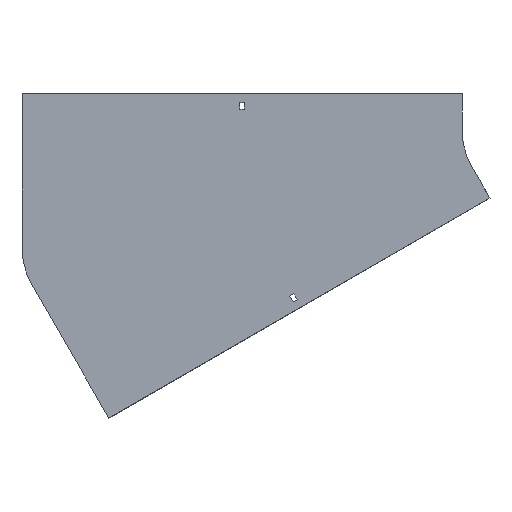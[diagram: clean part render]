
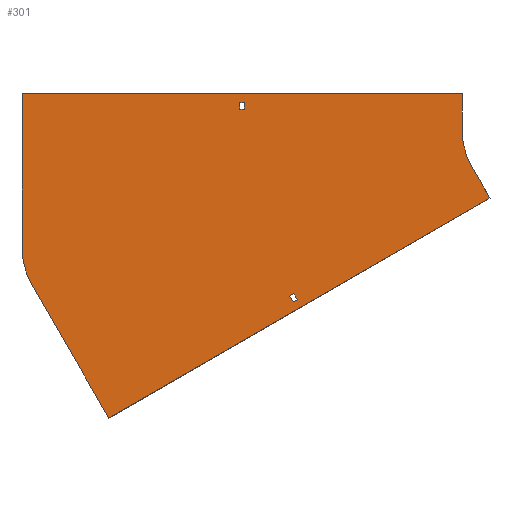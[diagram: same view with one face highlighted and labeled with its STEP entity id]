
A CAD part, front view. The second image highlights one B-rep face of the part: STEP entity #301.
In plain terms, the highlighted planar face has unit normal (0, -1, 0).
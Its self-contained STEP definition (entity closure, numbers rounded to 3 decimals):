
#3 = VERTEX_POINT ( 'NONE', #1500 ) ;
#6 = LINE ( 'NONE', #761, #1547 ) ;
#14 = CARTESIAN_POINT ( 'NONE',  ( -331.957, 0., -235.534 ) ) ;
#36 = CARTESIAN_POINT ( 'NONE',  ( -86.603, 0., -50. ) ) ;
#40 = DIRECTION ( 'NONE',  ( -0.866, 0., -0.5 ) ) ;
#74 = AXIS2_PLACEMENT_3D ( 'NONE', #1403, #182, #1391 ) ;
#79 = ORIENTED_EDGE ( 'NONE', *, *, #1730, .F. ) ;
#91 = CARTESIAN_POINT ( 'NONE',  ( -690.603, 0., -211.841 ) ) ;
#135 = LINE ( 'NONE', #313, #1770 ) ;
#182 = DIRECTION ( 'NONE',  ( 0., -1., 0. ) ) ;
#193 = CARTESIAN_POINT ( 'NONE',  ( -704., 0., 50. ) ) ;
#211 = EDGE_CURVE ( 'NONE', #961, #1633, #1027, .T. ) ;
#217 = CARTESIAN_POINT ( 'NONE',  ( -405.25, 0., 29. ) ) ;
#227 = VERTEX_POINT ( 'NONE', #91 ) ;
#247 = CARTESIAN_POINT ( 'NONE',  ( -326.328, 0., -232.284 ) ) ;
#284 = FACE_BOUND ( 'NONE', #1212, .T. ) ;
#301 = ADVANCED_FACE ( 'NONE', ( #284, #1386, #1505 ), #926, .T. ) ;
#310 = VECTOR ( 'NONE', #40, 1000. ) ;
#313 = CARTESIAN_POINT ( 'NONE',  ( -405.25, 0., 38. ) ) ;
#324 = CARTESIAN_POINT ( 'NONE',  ( -100., 0., 0. ) ) ;
#333 = VERTEX_POINT ( 'NONE', #36 ) ;
#343 = VERTEX_POINT ( 'NONE', #14 ) ;
#386 = VERTEX_POINT ( 'NONE', #1806 ) ;
#403 = ORIENTED_EDGE ( 'NONE', *, *, #594, .T. ) ;
#434 = EDGE_CURVE ( 'NONE', #1881, #1022, #1248, .T. ) ;
#445 = CARTESIAN_POINT ( 'NONE',  ( 0., 0., 0. ) ) ;
#490 = LINE ( 'NONE', #1157, #989 ) ;
#493 = LINE ( 'NONE', #1418, #1107 ) ;
#532 = ORIENTED_EDGE ( 'NONE', *, *, #898, .F. ) ;
#549 = VECTOR ( 'NONE', #1213, 1000. ) ;
#594 = EDGE_CURVE ( 'NONE', #1633, #1546, #1474, .T. ) ;
#610 = VECTOR ( 'NONE', #1449, 1000. ) ;
#636 = ORIENTED_EDGE ( 'NONE', *, *, #1468, .F. ) ;
#661 = VERTEX_POINT ( 'NONE', #1907 ) ;
#667 = AXIS2_PLACEMENT_3D ( 'NONE', #445, #1063, #1236 ) ;
#669 = CIRCLE ( 'NONE', #1235, 100. ) ;
#709 = ORIENTED_EDGE ( 'NONE', *, *, #211, .T. ) ;
#710 = CARTESIAN_POINT ( 'NONE',  ( -604., 0., -161.841 ) ) ;
#713 = EDGE_CURVE ( 'NONE', #1715, #343, #1191, .T. ) ;
#717 = DIRECTION ( 'NONE',  ( 0., 1., 0. ) ) ;
#719 = CARTESIAN_POINT ( 'NONE',  ( -405.25, 0., 29. ) ) ;
#729 = VECTOR ( 'NONE', #1687, 1000. ) ;
#733 = CARTESIAN_POINT ( 'NONE',  ( -405.25, 0., 38. ) ) ;
#747 = VECTOR ( 'NONE', #1918, 1000. ) ;
#748 = LINE ( 'NONE', #1057, #1075 ) ;
#754 = EDGE_CURVE ( 'NONE', #1546, #661, #135, .T. ) ;
#761 = CARTESIAN_POINT ( 'NONE',  ( -584.682, 0., -395.301 ) ) ;
#784 = ORIENTED_EDGE ( 'NONE', *, *, #1284, .F. ) ;
#791 = ORIENTED_EDGE ( 'NONE', *, *, #1046, .F. ) ;
#792 = VECTOR ( 'NONE', #1857, 1000. ) ;
#798 = VERTEX_POINT ( 'NONE', #324 ) ;
#834 = EDGE_CURVE ( 'NONE', #965, #951, #493, .T. ) ;
#849 = CARTESIAN_POINT ( 'NONE',  ( -336.457, 0., -227.74 ) ) ;
#880 = DIRECTION ( 'NONE',  ( 1., 0., 0. ) ) ;
#881 = CIRCLE ( 'NONE', #74, 100. ) ;
#884 = ORIENTED_EDGE ( 'NONE', *, *, #1556, .F. ) ;
#885 = VECTOR ( 'NONE', #1083, 1000. ) ;
#898 = EDGE_CURVE ( 'NONE', #386, #1881, #979, .T. ) ;
#918 = LINE ( 'NONE', #1244, #729 ) ;
#926 = PLANE ( 'NONE',  #667 ) ;
#933 = ORIENTED_EDGE ( 'NONE', *, *, #1635, .F. ) ;
#951 = VERTEX_POINT ( 'NONE', #1722 ) ;
#961 = VERTEX_POINT ( 'NONE', #1014 ) ;
#965 = VERTEX_POINT ( 'NONE', #247 ) ;
#979 = LINE ( 'NONE', #1384, #792 ) ;
#989 = VECTOR ( 'NONE', #1761, 1000. ) ;
#991 = DIRECTION ( 'NONE',  ( 0., 0., 1. ) ) ;
#1006 = ORIENTED_EDGE ( 'NONE', *, *, #1292, .T. ) ;
#1010 = DIRECTION ( 'NONE',  ( -1., 0., 0. ) ) ;
#1014 = CARTESIAN_POINT ( 'NONE',  ( -398.75, 0., 29. ) ) ;
#1019 = LINE ( 'NONE', #1317, #747 ) ;
#1022 = VERTEX_POINT ( 'NONE', #1905 ) ;
#1027 = LINE ( 'NONE', #217, #1864 ) ;
#1041 = ORIENTED_EDGE ( 'NONE', *, *, #754, .T. ) ;
#1046 = EDGE_CURVE ( 'NONE', #227, #386, #669, .T. ) ;
#1057 = CARTESIAN_POINT ( 'NONE',  ( -331.957, 0., -235.534 ) ) ;
#1063 = DIRECTION ( 'NONE',  ( 0., -1., 0. ) ) ;
#1075 = VECTOR ( 'NONE', #1649, 1000. ) ;
#1083 = DIRECTION ( 'NONE',  ( 1., 0., 0. ) ) ;
#1086 = CARTESIAN_POINT ( 'NONE',  ( -61.603, 0., -93.301 ) ) ;
#1107 = VECTOR ( 'NONE', #1699, 1000. ) ;
#1157 = CARTESIAN_POINT ( 'NONE',  ( -86.603, 0., -50. ) ) ;
#1179 = DIRECTION ( 'NONE',  ( -0.5, 0., 0.866 ) ) ;
#1181 = ORIENTED_EDGE ( 'NONE', *, *, #1320, .F. ) ;
#1191 = LINE ( 'NONE', #1493, #549 ) ;
#1212 = EDGE_LOOP ( 'NONE', ( #403, #1041, #1006, #709 ) ) ;
#1213 = DIRECTION ( 'NONE',  ( 0.5, 0., -0.866 ) ) ;
#1235 = AXIS2_PLACEMENT_3D ( 'NONE', #710, #717, #991 ) ;
#1236 = DIRECTION ( 'NONE',  ( 0., 0., -1. ) ) ;
#1244 = CARTESIAN_POINT ( 'NONE',  ( -398.75, 0., 29. ) ) ;
#1248 = LINE ( 'NONE', #1888, #885 ) ;
#1284 = EDGE_CURVE ( 'NONE', #798, #333, #881, .T. ) ;
#1288 = ORIENTED_EDGE ( 'NONE', *, *, #434, .F. ) ;
#1292 = EDGE_CURVE ( 'NONE', #661, #961, #918, .T. ) ;
#1317 = CARTESIAN_POINT ( 'NONE',  ( -100., 0., 50. ) ) ;
#1320 = EDGE_CURVE ( 'NONE', #333, #3, #490, .T. ) ;
#1366 = ORIENTED_EDGE ( 'NONE', *, *, #834, .F. ) ;
#1382 = ORIENTED_EDGE ( 'NONE', *, *, #713, .F. ) ;
#1384 = CARTESIAN_POINT ( 'NONE',  ( -704., 0., -161.841 ) ) ;
#1386 = FACE_OUTER_BOUND ( 'NONE', #1736, .T. ) ;
#1391 = DIRECTION ( 'NONE',  ( 0., 0., -1. ) ) ;
#1403 = CARTESIAN_POINT ( 'NONE',  ( 0., 0., 0. ) ) ;
#1418 = CARTESIAN_POINT ( 'NONE',  ( -330.828, 0., -224.49 ) ) ;
#1449 = DIRECTION ( 'NONE',  ( 0., 0., 1. ) ) ;
#1468 = EDGE_CURVE ( 'NONE', #343, #965, #748, .T. ) ;
#1474 = LINE ( 'NONE', #719, #610 ) ;
#1481 = VECTOR ( 'NONE', #1601, 1000. ) ;
#1493 = CARTESIAN_POINT ( 'NONE',  ( -336.457, 0., -227.74 ) ) ;
#1500 = CARTESIAN_POINT ( 'NONE',  ( -61.603, 0., -93.301 ) ) ;
#1505 = FACE_BOUND ( 'NONE', #1603, .T. ) ;
#1546 = VERTEX_POINT ( 'NONE', #733 ) ;
#1547 = VECTOR ( 'NONE', #1179, 1000. ) ;
#1556 = EDGE_CURVE ( 'NONE', #1755, #227, #6, .T. ) ;
#1562 = LINE ( 'NONE', #1086, #310 ) ;
#1601 = DIRECTION ( 'NONE',  ( -0.866, 0., -0.5 ) ) ;
#1603 = EDGE_LOOP ( 'NONE', ( #636, #1382, #79, #1366 ) ) ;
#1607 = LINE ( 'NONE', #1901, #1481 ) ;
#1633 = VERTEX_POINT ( 'NONE', #1716 ) ;
#1635 = EDGE_CURVE ( 'NONE', #3, #1755, #1562, .T. ) ;
#1649 = DIRECTION ( 'NONE',  ( 0.866, 0., 0.5 ) ) ;
#1687 = DIRECTION ( 'NONE',  ( 0., 0., -1. ) ) ;
#1699 = DIRECTION ( 'NONE',  ( -0.5, 0., 0.866 ) ) ;
#1715 = VERTEX_POINT ( 'NONE', #849 ) ;
#1716 = CARTESIAN_POINT ( 'NONE',  ( -405.25, 0., 29. ) ) ;
#1722 = CARTESIAN_POINT ( 'NONE',  ( -330.828, 0., -224.49 ) ) ;
#1730 = EDGE_CURVE ( 'NONE', #951, #1715, #1607, .T. ) ;
#1736 = EDGE_LOOP ( 'NONE', ( #1288, #532, #791, #884, #933, #1181, #784, #1851 ) ) ;
#1755 = VERTEX_POINT ( 'NONE', #1911 ) ;
#1761 = DIRECTION ( 'NONE',  ( 0.5, 0., -0.866 ) ) ;
#1770 = VECTOR ( 'NONE', #880, 1000. ) ;
#1806 = CARTESIAN_POINT ( 'NONE',  ( -704., 0., -161.841 ) ) ;
#1850 = EDGE_CURVE ( 'NONE', #1022, #798, #1019, .T. ) ;
#1851 = ORIENTED_EDGE ( 'NONE', *, *, #1850, .F. ) ;
#1857 = DIRECTION ( 'NONE',  ( 0., 0., 1. ) ) ;
#1864 = VECTOR ( 'NONE', #1010, 1000. ) ;
#1881 = VERTEX_POINT ( 'NONE', #193 ) ;
#1888 = CARTESIAN_POINT ( 'NONE',  ( -704., 0., 50. ) ) ;
#1901 = CARTESIAN_POINT ( 'NONE',  ( -336.457, 0., -227.74 ) ) ;
#1905 = CARTESIAN_POINT ( 'NONE',  ( -100., 0., 50. ) ) ;
#1907 = CARTESIAN_POINT ( 'NONE',  ( -398.75, 0., 38. ) ) ;
#1911 = CARTESIAN_POINT ( 'NONE',  ( -584.682, 0., -395.301 ) ) ;
#1918 = DIRECTION ( 'NONE',  ( 0., 0., -1. ) ) ;
